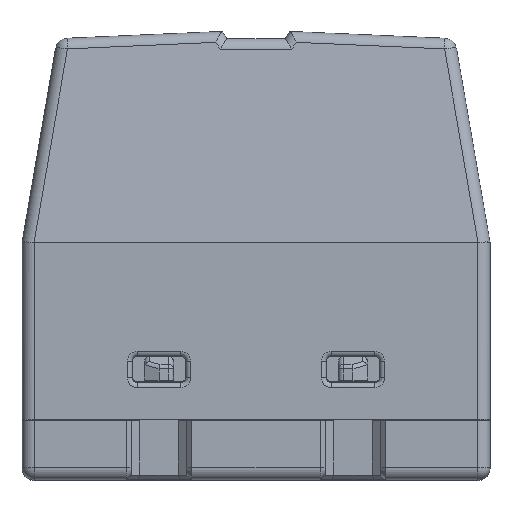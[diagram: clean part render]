
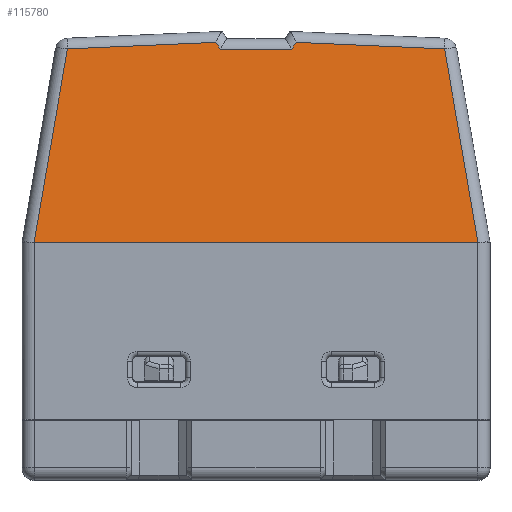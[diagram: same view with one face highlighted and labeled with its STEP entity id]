
A CAD part, top view. The second image highlights one B-rep face of the part: STEP entity #115780.
In plain terms, the highlighted planar face has unit normal (0, 0.12, 0.993).
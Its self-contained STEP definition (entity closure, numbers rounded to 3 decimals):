
#105310=CARTESIAN_POINT('',(38.565,44.535,12.2));
#105320=VERTEX_POINT('',#105310);
#105350=CARTESIAN_POINT('',(95.431,44.535,12.2));
#105360=DIRECTION('',(1.,0.,0.));
#105370=VECTOR('',#105360,1.);
#105380=LINE('',#105350,#105370);
#105390=CARTESIAN_POINT('',(56.865,44.535,12.2));
#105400=VERTEX_POINT('',#105390);
#105410=EDGE_CURVE('',#105320,#105400,#105380,.T.);
#113830=CARTESIAN_POINT('',(38.562,44.535,
12.2));
#113840=VERTEX_POINT('',#113830);
#113870=CARTESIAN_POINT('',(38.565,48.677,11.7));
#113880=DIRECTION('',(0.,-0.12,
-0.993));
#113890=DIRECTION('',(0.,-0.993,
0.12));
#113900=AXIS2_PLACEMENT_3D('',#113870,#113880,#113890);
#113910=ELLIPSE('',#113900,4.173,0.5);
#113920=EDGE_CURVE('',#105320,#113840,#113910,.T.);
#114190=CARTESIAN_POINT('',(39.94,52.513,
11.237));
#114200=VERTEX_POINT('',#114190);
#114230=CARTESIAN_POINT('',(31.308,2.51,
17.272));
#114240=DIRECTION('',(0.169,0.979,
-0.118));
#114250=VECTOR('',#114240,1.);
#114260=LINE('',#114230,#114250);
#114270=EDGE_CURVE('',#113840,#114200,#114260,.T.);
#115130=CARTESIAN_POINT('',(36.135,53.235,11.15));
#115140=DIRECTION('',(0.,-0.12,
-0.993));
#115150=DIRECTION('',(0.,-0.993,
0.12));
#115160=AXIS2_PLACEMENT_3D('',#115130,#115140,#115150);
#115170=PLANE('',#115160);
#115180=CARTESIAN_POINT('',(79.571,2.51,
17.272));
#115190=DIRECTION('',(0.552,-0.828,
0.1));
#115200=VECTOR('',#115190,1.);
#115210=LINE('',#115180,#115200);
#115220=CARTESIAN_POINT('',(46.056,52.783,
11.205));
#115230=VERTEX_POINT('',#115220);
#115240=CARTESIAN_POINT('',(46.248,52.495,
11.239));
#115250=VERTEX_POINT('',#115240);
#115260=EDGE_CURVE('',#115230,#115250,#115210,.T.);
#115270=ORIENTED_EDGE('',*,*,#115260,.F.);
#115280=CARTESIAN_POINT('',(95.431,52.495,11.239))
;
#115290=DIRECTION('',(1.,0.,0.));
#115300=VECTOR('',#115290,1.);
#115310=LINE('',#115280,#115300);
#115320=CARTESIAN_POINT('',(49.183,52.495,
11.239));
#115330=VERTEX_POINT('',#115320);
#115340=EDGE_CURVE('',#115250,#115330,#115310,.T.);
#115350=ORIENTED_EDGE('',*,*,#115340,.F.);
#115360=CARTESIAN_POINT('',(15.86,2.51,
17.272));
#115370=DIRECTION('',(0.552,0.828,
-0.1));
#115380=VECTOR('',#115370,1.);
#115390=LINE('',#115360,#115380);
#115400=CARTESIAN_POINT('',(49.375,52.783,
11.205));
#115410=VERTEX_POINT('',#115400);
#115420=EDGE_CURVE('',#115330,#115410,#115390,.T.);
#115430=ORIENTED_EDGE('',*,*,#115420,.F.);
#115440=CARTESIAN_POINT('',(95.431,50.751,11.45))
;
#115450=DIRECTION('',(0.999,-0.044,
0.005));
#115460=VECTOR('',#115450,1.);
#115470=LINE('',#115440,#115460);
#115480=CARTESIAN_POINT('',(55.491,52.513,
11.237));
#115490=VERTEX_POINT('',#115480);
#115500=EDGE_CURVE('',#115410,#115490,#115470,.T.);
#115510=ORIENTED_EDGE('',*,*,#115500,.F.);
#115520=CARTESIAN_POINT('',(64.123,2.51,
17.272));
#115530=DIRECTION('',(0.169,-0.979,
0.118));
#115540=VECTOR('',#115530,1.);
#115550=LINE('',#115520,#115540);
#115560=CARTESIAN_POINT('',(56.868,44.535,
12.2));
#115570=VERTEX_POINT('',#115560);
#115580=EDGE_CURVE('',#115490,#115570,#115550,.T.);
#115590=ORIENTED_EDGE('',*,*,#115580,.F.);
#115600=CARTESIAN_POINT('',(56.865,48.677,11.7));
#115610=DIRECTION('',(0.,-0.12,
-0.993));
#115620=DIRECTION('',(0.,-0.993,
0.12));
#115630=AXIS2_PLACEMENT_3D('',#115600,#115610,#115620);
#115640=ELLIPSE('',#115630,4.173,0.5);
#115650=EDGE_CURVE('',#115570,#105400,#115640,.T.);
#115660=ORIENTED_EDGE('',*,*,#115650,.F.);
#115670=ORIENTED_EDGE('',*,*,#105410,.T.);
#115680=ORIENTED_EDGE('',*,*,#113920,.F.);
#115690=ORIENTED_EDGE('',*,*,#114270,.F.);
#115700=CARTESIAN_POINT('',(95.431,54.961,10.942))
;
#115710=DIRECTION('',(0.999,0.044,
-0.005));
#115720=VECTOR('',#115710,1.);
#115730=LINE('',#115700,#115720);
#115740=EDGE_CURVE('',#114200,#115230,#115730,.T.);
#115750=ORIENTED_EDGE('',*,*,#115740,.F.);
#115760=EDGE_LOOP('',(#115750,#115690,#115680,#115670,#115660,#115590,
#115510,#115430,#115350,#115270));
#115770=FACE_OUTER_BOUND('',#115760,.T.);
#115780=ADVANCED_FACE('',(#115770),#115170,.F.);
